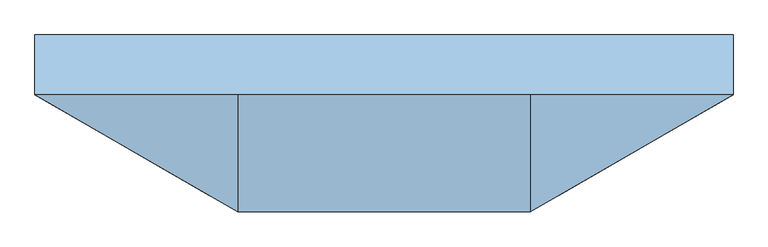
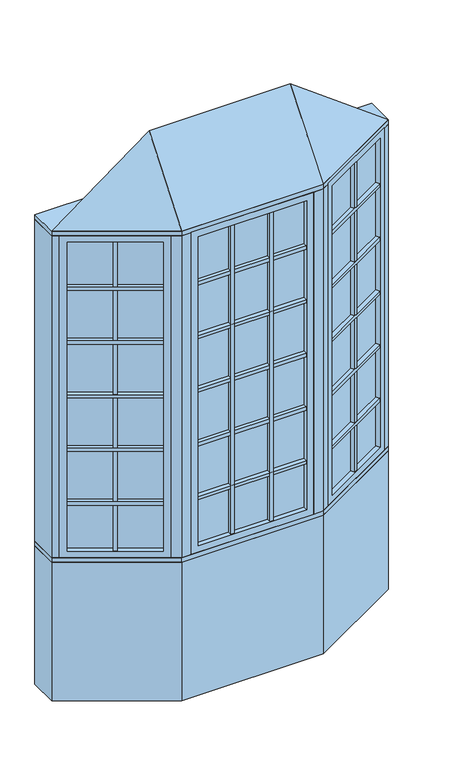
"""IFC4 building model written with IfcOpenShell, lengths in millimetres: window geometry, Pollard_Windows_Tudor Casement Bows and Bays : AML-BAY 30 AFR0518-08-500_GC."""

from ifc_helpers import new_model, si_unit, frame, origin, origin_with_axes, place, context, project, spatial, polyline, outline, extrude, faceted_brep, source, transform, mapped, element, save


def window_5dafa3b9(model_context):
    return source(origin(), model_context, "Body", "SolidModel", [
        extrude(outline(polyline([(445.7305346, -327.3537343), (434.7305346, -308.3011754), (815.6135794, -88.3982469), (826.6135794, -107.4508058), (445.7305346, -327.3537343)])), frame((0.0, 0.0, 1690.998), z_axis=(0.0, 0.0, 1.0), x_axis=(1.0, 0.0, 0.0)), (0.0, 0.0, 1.0), 18.0),
        extrude(outline(polyline([(432.1905346, -303.9017664), (421.1905346, -284.8492075), (802.0735794, -64.946279), (813.0735794, -83.9988379), (432.1905346, -303.9017664)])), frame((0.0, 0.0, 1690.998), z_axis=(0.0, 0.0, 1.0), x_axis=(1.0, 0.0, 0.0)), (0.0, 0.0, 1.0), 18.0),
        extrude(outline(polyline([(445.7305346, -327.3537343), (434.7305346, -308.3011754), (815.6135794, -88.3982469), (826.6135794, -107.4508058), (445.7305346, -327.3537343)])), frame((0.0, 0.0, 1090.998), z_axis=(0.0, 0.0, 1.0), x_axis=(1.0, 0.0, 0.0)), (0.0, 0.0, 1.0), 18.0),
        extrude(outline(polyline([(432.1905346, -303.9017664), (421.1905346, -284.8492075), (802.0735794, -64.946279), (813.0735794, -83.9988379), (432.1905346, -303.9017664)])), frame((0.0, 0.0, 1090.998), z_axis=(0.0, 0.0, 1.0), x_axis=(1.0, 0.0, 0.0)), (0.0, 0.0, 1.0), 18.0),
        extrude(outline(polyline([(445.7305346, -327.3537343), (434.7305346, -308.3011754), (815.6135794, -88.3982469), (826.6135794, -107.4508058), (445.7305346, -327.3537343)])), frame((0.0, 0.0, 1390.998), z_axis=(0.0, 0.0, 1.0), x_axis=(1.0, 0.0, 0.0)), (0.0, 0.0, 1.0), 18.0),
        extrude(outline(polyline([(432.1905346, -303.9017664), (421.1905346, -284.8492075), (802.0735794, -64.946279), (813.0735794, -83.9988379), (432.1905346, -303.9017664)])), frame((0.0, 0.0, 1390.998), z_axis=(0.0, 0.0, 1.0), x_axis=(1.0, 0.0, 0.0)), (0.0, 0.0, 1.0), 18.0),
        extrude(outline(polyline([(445.7305346, -327.3537343), (434.7305346, -308.3011754), (815.6135794, -88.3982469), (826.6135794, -107.4508058), (445.7305346, -327.3537343)])), frame((0.0, 0.0, 1990.998), z_axis=(0.0, 0.0, 1.0), x_axis=(1.0, 0.0, 0.0)), (0.0, 0.0, 1.0), 18.0),
        extrude(outline(polyline([(432.1905346, -303.9017664), (421.1905346, -284.8492075), (802.0735794, -64.946279), (813.0735794, -83.9988379), (432.1905346, -303.9017664)])), frame((0.0, 0.0, 1990.998), z_axis=(0.0, 0.0, 1.0), x_axis=(1.0, 0.0, 0.0)), (0.0, 0.0, 1.0), 18.0),
        extrude(outline(polyline([(445.7305346, -327.3537343), (434.7305346, -308.3011754), (815.6135794, -88.3982469), (826.6135794, -107.4508058), (445.7305346, -327.3537343)])), frame((0.0, 0.0, 2290.998), z_axis=(0.0, 0.0, 1.0), x_axis=(1.0, 0.0, 0.0)), (0.0, 0.0, 1.0), 18.0),
        extrude(outline(polyline([(432.1905346, -303.9017664), (421.1905346, -284.8492075), (802.0735794, -64.946279), (813.0735794, -83.9988379), (432.1905346, -303.9017664)])), frame((0.0, 0.0, 2290.998), z_axis=(0.0, 0.0, 1.0), x_axis=(1.0, 0.0, 0.0)), (0.0, 0.0, 1.0), 18.0),
        extrude(outline(polyline([(632.9662856, -193.8497112), (643.9662856, -212.9022701), (628.3778284, -221.9022701), (617.3778284, -202.8497112), (632.9662856, -193.8497112)])), frame((0.0, 0.0, 835.8628), z_axis=(0.0, 0.0, 1.0), x_axis=(1.0, 0.0, 0.0)), (0.0, 0.0, 1.0), 1728.2704),
        extrude(outline(polyline([(630.4262856, -189.4503021), (614.8378284, -198.4503021), (603.8378284, -179.3977432), (619.4262856, -170.3977432), (630.4262856, -189.4503021)])), frame((0.0, 0.0, 835.8628), z_axis=(0.0, 0.0, 1.0), x_axis=(1.0, 0.0, 0.0)), (0.0, 0.0, 1.0), 1728.2704),
        extrude(outline(polyline([(826.612102, -82.0482469), (423.7320119, -314.6511754), (421.1920119, -310.2517664), (824.072102, -77.6488379), (826.612102, -82.0482469)])), frame((0.0, 0.0, 823.1628), z_axis=(0.0, 0.0, 1.0), x_axis=(1.0, 0.0, 0.0)), (0.0, 0.0, 1.0), 1753.6704),
        faceted_brep([(815.6135794, -88.3982469, 835.8628), (828.3135794, -110.3952922, 835.8628), (828.3135794, -110.3952922, 2564.1332), (815.6135794, -88.3982469, 2564.1332), (824.072102, -77.6488379, 823.1628), (826.612102, -82.0482469, 823.1628), (826.612102, -82.0482469, 2576.8332), (824.072102, -77.6488379, 2576.8332), (800.3735794, -62.0017926, 835.8628), (813.0735794, -83.9988379, 835.8628), (813.0735794, -83.9988379, 2564.1332), (800.3735794, -62.0017926, 2564.1332), (859.3734073, -92.4628922, 799.998), (831.4334073, -44.0693926, 799.998), (831.4334073, -44.0693926, 2599.998), (859.3734073, -92.4628922, 2599.998), (447.4305346, -330.2982207, 2564.1332), (434.7305346, -308.3011754, 2564.1332), (423.7320119, -314.6511754, 2576.8332), (421.1920119, -310.2517664, 2576.8332), (432.1905346, -303.9017664, 2564.1332), (419.4905346, -281.9047211, 2564.1332), (388.4307067, -299.8371211, 2599.998), (416.3707067, -348.2306207, 2599.998), (447.4305346, -330.2982207, 835.8628), (434.7305346, -308.3011754, 835.8628), (423.7320119, -314.6511754, 823.1628), (421.1920119, -310.2517664, 823.1628), (432.1905346, -303.9017664, 835.8628), (419.4905346, -281.9047211, 835.8628), (388.4307067, -299.8371211, 799.998), (416.3707067, -348.2306207, 799.998)], [[[0, 1, 2, 3]], [[4, 5, 6, 7]], [[8, 9, 10, 11]], [[12, 13, 14, 15]], [[3, 2, 16, 17]], [[7, 6, 18, 19]], [[11, 10, 20, 21]], [[15, 14, 22, 23]], [[17, 16, 24, 25]], [[19, 18, 26, 27]], [[21, 20, 28, 29]], [[23, 22, 30, 31]], [[25, 24, 1, 0]], [[5, 26, 18, 6], [3, 17, 25, 0]], [[27, 26, 5, 4]], [[7, 19, 27, 4], [9, 28, 20, 10]], [[29, 28, 9, 8]], [[13, 30, 22, 14], [11, 21, 29, 8]], [[31, 30, 13, 12]], [[15, 23, 31, 12], [1, 24, 16, 2]]]),
        extrude(outline(polyline([(111.9683455, -347.8306207), (111.9683455, -369.8306207), (93.9683455, -369.8306207), (93.9683455, -347.8306207), (111.9683455, -347.8306207)])), frame((0.0, 0.0, 835.8628), z_axis=(0.0, 0.0, 1.0), x_axis=(1.0, 0.0, 0.0)), (0.0, 0.0, 1.0), 1728.2704),
        extrude(outline(polyline([(111.9683455, -342.7506207), (93.9683455, -342.7506207), (93.9683455, -320.7506207), (111.9683455, -320.7506207), (111.9683455, -342.7506207)])), frame((0.0, 0.0, 835.8628), z_axis=(0.0, 0.0, 1.0), x_axis=(1.0, 0.0, 0.0)), (0.0, 0.0, 1.0), 1728.2704),
        extrude(outline(polyline([(-93.9683455, -347.8306207), (-93.9683455, -369.8306207), (-111.9683455, -369.8306207), (-111.9683455, -347.8306207), (-93.9683455, -347.8306207)])), frame((0.0, 0.0, 835.8628), z_axis=(0.0, 0.0, 1.0), x_axis=(1.0, 0.0, 0.0)), (0.0, 0.0, 1.0), 1728.2704),
        extrude(outline(polyline([(-93.9683455, -342.7506207), (-111.9683455, -342.7506207), (-111.9683455, -320.7506207), (-93.9683455, -320.7506207), (-93.9683455, -342.7506207)])), frame((0.0, 0.0, 835.8628), z_axis=(0.0, 0.0, 1.0), x_axis=(1.0, 0.0, 0.0)), (0.0, 0.0, 1.0), 1728.2704),
        extrude(outline(polyline([(-287.2046365, -369.8306207), (-287.2046365, -347.8306207), (287.2046365, -347.8306207), (287.2046365, -369.8306207), (-287.2046365, -369.8306207)])), frame((0.0, 0.0, 1090.998), z_axis=(0.0, 0.0, 1.0), x_axis=(1.0, 0.0, 0.0)), (0.0, 0.0, 1.0), 18.0),
        extrude(outline(polyline([(-287.2046365, -342.7506207), (-287.2046365, -320.7506207), (287.2046365, -320.7506207), (287.2046365, -342.7506207), (-287.2046365, -342.7506207)])), frame((0.0, 0.0, 1090.998), z_axis=(0.0, 0.0, 1.0), x_axis=(1.0, 0.0, 0.0)), (0.0, 0.0, 1.0), 18.0),
        extrude(outline(polyline([(-287.2046365, -369.8306207), (-287.2046365, -347.8306207), (287.2046365, -347.8306207), (287.2046365, -369.8306207), (-287.2046365, -369.8306207)])), frame((0.0, 0.0, 1390.998), z_axis=(0.0, 0.0, 1.0), x_axis=(1.0, 0.0, 0.0)), (0.0, 0.0, 1.0), 18.0),
        extrude(outline(polyline([(-287.2046365, -342.7506207), (-287.2046365, -320.7506207), (287.2046365, -320.7506207), (287.2046365, -342.7506207), (-287.2046365, -342.7506207)])), frame((0.0, 0.0, 1390.998), z_axis=(0.0, 0.0, 1.0), x_axis=(1.0, 0.0, 0.0)), (0.0, 0.0, 1.0), 18.0),
        extrude(outline(polyline([(-287.2046365, -369.8306207), (-287.2046365, -347.8306207), (287.2046365, -347.8306207), (287.2046365, -369.8306207), (-287.2046365, -369.8306207)])), frame((0.0, 0.0, 1690.998), z_axis=(0.0, 0.0, 1.0), x_axis=(1.0, 0.0, 0.0)), (0.0, 0.0, 1.0), 18.0),
        extrude(outline(polyline([(-287.2046365, -342.7506207), (-287.2046365, -320.7506207), (287.2046365, -320.7506207), (287.2046365, -342.7506207), (-287.2046365, -342.7506207)])), frame((0.0, 0.0, 1690.998), z_axis=(0.0, 0.0, 1.0), x_axis=(1.0, 0.0, 0.0)), (0.0, 0.0, 1.0), 18.0),
        extrude(outline(polyline([(-287.2046365, -369.8306207), (-287.2046365, -347.8306207), (287.2046365, -347.8306207), (287.2046365, -369.8306207), (-287.2046365, -369.8306207)])), frame((0.0, 0.0, 1990.998), z_axis=(0.0, 0.0, 1.0), x_axis=(1.0, 0.0, 0.0)), (0.0, 0.0, 1.0), 18.0),
        extrude(outline(polyline([(-287.2046365, -342.7506207), (-287.2046365, -320.7506207), (287.2046365, -320.7506207), (287.2046365, -342.7506207), (-287.2046365, -342.7506207)])), frame((0.0, 0.0, 1990.998), z_axis=(0.0, 0.0, 1.0), x_axis=(1.0, 0.0, 0.0)), (0.0, 0.0, 1.0), 18.0),
        extrude(outline(polyline([(-826.6135794, -107.4508058), (-815.6135794, -88.3982469), (-434.7305346, -308.3011754), (-445.7305346, -327.3537343), (-826.6135794, -107.4508058)])), frame((0.0, 0.0, 1090.998), z_axis=(0.0, 0.0, 1.0), x_axis=(1.0, 0.0, 0.0)), (0.0, 0.0, 1.0), 18.0),
        extrude(outline(polyline([(-813.0735794, -83.9988379), (-802.0735794, -64.946279), (-421.1905346, -284.8492075), (-432.1905346, -303.9017664), (-813.0735794, -83.9988379)])), frame((0.0, 0.0, 1090.998), z_axis=(0.0, 0.0, 1.0), x_axis=(1.0, 0.0, 0.0)), (0.0, 0.0, 1.0), 18.0),
        extrude(outline(polyline([(-826.6135794, -107.4508058), (-815.6135794, -88.3982469), (-434.7305346, -308.3011754), (-445.7305346, -327.3537343), (-826.6135794, -107.4508058)])), frame((0.0, 0.0, 1390.998), z_axis=(0.0, 0.0, 1.0), x_axis=(1.0, 0.0, 0.0)), (0.0, 0.0, 1.0), 18.0),
        extrude(outline(polyline([(-813.0735794, -83.9988379), (-802.0735794, -64.946279), (-421.1905346, -284.8492075), (-432.1905346, -303.9017664), (-813.0735794, -83.9988379)])), frame((0.0, 0.0, 1390.998), z_axis=(0.0, 0.0, 1.0), x_axis=(1.0, 0.0, 0.0)), (0.0, 0.0, 1.0), 18.0),
        extrude(outline(polyline([(-826.6135794, -107.4508058), (-815.6135794, -88.3982469), (-434.7305346, -308.3011754), (-445.7305346, -327.3537343), (-826.6135794, -107.4508058)])), frame((0.0, 0.0, 1690.998), z_axis=(0.0, 0.0, 1.0), x_axis=(1.0, 0.0, 0.0)), (0.0, 0.0, 1.0), 18.0),
        extrude(outline(polyline([(-813.0735794, -83.9988379), (-802.0735794, -64.946279), (-421.1905346, -284.8492075), (-432.1905346, -303.9017664), (-813.0735794, -83.9988379)])), frame((0.0, 0.0, 1690.998), z_axis=(0.0, 0.0, 1.0), x_axis=(1.0, 0.0, 0.0)), (0.0, 0.0, 1.0), 18.0),
        extrude(outline(polyline([(-826.6135794, -107.4508058), (-815.6135794, -88.3982469), (-434.7305346, -308.3011754), (-445.7305346, -327.3537343), (-826.6135794, -107.4508058)])), frame((0.0, 0.0, 1990.998), z_axis=(0.0, 0.0, 1.0), x_axis=(1.0, 0.0, 0.0)), (0.0, 0.0, 1.0), 18.0),
        extrude(outline(polyline([(-813.0735794, -83.9988379), (-802.0735794, -64.946279), (-421.1905346, -284.8492075), (-432.1905346, -303.9017664), (-813.0735794, -83.9988379)])), frame((0.0, 0.0, 1990.998), z_axis=(0.0, 0.0, 1.0), x_axis=(1.0, 0.0, 0.0)), (0.0, 0.0, 1.0), 18.0),
        extrude(outline(polyline([(-826.6135794, -107.4508058), (-815.6135794, -88.3982469), (-434.7305346, -308.3011754), (-445.7305346, -327.3537343), (-826.6135794, -107.4508058)])), frame((0.0, 0.0, 2290.998), z_axis=(0.0, 0.0, 1.0), x_axis=(1.0, 0.0, 0.0)), (0.0, 0.0, 1.0), 18.0),
        extrude(outline(polyline([(-813.0735794, -83.9988379), (-802.0735794, -64.946279), (-421.1905346, -284.8492075), (-432.1905346, -303.9017664), (-813.0735794, -83.9988379)])), frame((0.0, 0.0, 2290.998), z_axis=(0.0, 0.0, 1.0), x_axis=(1.0, 0.0, 0.0)), (0.0, 0.0, 1.0), 18.0),
        extrude(outline(polyline([(-287.2046365, -369.8306207), (-287.2046365, -347.8306207), (287.2046365, -347.8306207), (287.2046365, -369.8306207), (-287.2046365, -369.8306207)])), frame((0.0, 0.0, 2290.998), z_axis=(0.0, 0.0, 1.0), x_axis=(1.0, 0.0, 0.0)), (0.0, 0.0, 1.0), 18.0),
        extrude(outline(polyline([(-287.2046365, -342.7506207), (-287.2046365, -320.7506207), (287.2046365, -320.7506207), (287.2046365, -342.7506207), (-287.2046365, -342.7506207)])), frame((0.0, 0.0, 2290.998), z_axis=(0.0, 0.0, 1.0), x_axis=(1.0, 0.0, 0.0)), (0.0, 0.0, 1.0), 18.0),
        extrude(outline(polyline([(-617.3778284, -202.8497112), (-628.3778284, -221.9022701), (-643.9662856, -212.9022701), (-632.9662856, -193.8497112), (-617.3778284, -202.8497112)])), frame((0.0, 0.0, 835.8628), z_axis=(0.0, 0.0, 1.0), x_axis=(1.0, 0.0, 0.0)), (0.0, 0.0, 1.0), 1728.2704),
        extrude(outline(polyline([(-614.8378284, -198.4503021), (-630.4262856, -189.4503021), (-619.4262856, -170.3977432), (-603.8378284, -179.3977432), (-614.8378284, -198.4503021)])), frame((0.0, 0.0, 835.8628), z_axis=(0.0, 0.0, 1.0), x_axis=(1.0, 0.0, 0.0)), (0.0, 0.0, 1.0), 1728.2704),
        extrude(outline(polyline([(-423.7320119, -314.6511754), (-826.612102, -82.0482469), (-824.072102, -77.6488379), (-421.1920119, -310.2517664), (-423.7320119, -314.6511754)])), frame((0.0, 0.0, 823.1628), z_axis=(0.0, 0.0, 1.0), x_axis=(1.0, 0.0, 0.0)), (0.0, 0.0, 1.0), 1753.6704),
        faceted_brep([(-432.1905346, -303.9017664, 2564.1332), (-419.4905346, -281.9047211, 2564.1332), (-419.4905346, -281.9047211, 835.8628), (-432.1905346, -303.9017664, 835.8628), (-423.7320119, -314.6511754, 2576.8332), (-421.1920119, -310.2517664, 2576.8332), (-421.1920119, -310.2517664, 823.1628), (-423.7320119, -314.6511754, 823.1628), (-447.4305346, -330.2982207, 2564.1332), (-434.7305346, -308.3011754, 2564.1332), (-434.7305346, -308.3011754, 835.8628), (-447.4305346, -330.2982207, 835.8628), (-388.4307067, -299.8371211, 2599.998), (-416.3707067, -348.2306207, 2599.998), (-416.3707067, -348.2306207, 799.998), (-388.4307067, -299.8371211, 799.998), (-800.3735794, -62.0017926, 835.8628), (-813.0735794, -83.9988379, 835.8628), (-824.072102, -77.6488379, 823.1628), (-826.612102, -82.0482469, 823.1628), (-815.6135794, -88.3982469, 835.8628), (-828.3135794, -110.3952922, 835.8628), (-859.3734073, -92.4628922, 799.998), (-831.4334073, -44.0693926, 799.998), (-800.3735794, -62.0017926, 2564.1332), (-813.0735794, -83.9988379, 2564.1332), (-824.072102, -77.6488379, 2576.8332), (-826.612102, -82.0482469, 2576.8332), (-815.6135794, -88.3982469, 2564.1332), (-828.3135794, -110.3952922, 2564.1332), (-859.3734073, -92.4628922, 2599.998), (-831.4334073, -44.0693926, 2599.998)], [[[0, 1, 2, 3]], [[4, 5, 6, 7]], [[8, 9, 10, 11]], [[12, 13, 14, 15]], [[3, 2, 16, 17]], [[7, 6, 18, 19]], [[11, 10, 20, 21]], [[15, 14, 22, 23]], [[17, 16, 24, 25]], [[19, 18, 26, 27]], [[21, 20, 28, 29]], [[23, 22, 30, 31]], [[15, 23, 31, 12], [1, 24, 16, 2]], [[25, 24, 1, 0]], [[5, 26, 18, 6], [3, 17, 25, 0]], [[27, 26, 5, 4]], [[7, 19, 27, 4], [9, 28, 20, 10]], [[29, 28, 9, 8]], [[13, 30, 22, 14], [11, 21, 29, 8]], [[31, 30, 13, 12]]]),
        extrude(outline(polyline([(299.9046365, -347.8306207), (-299.9046365, -347.8306207), (-299.9046365, -342.7506207), (299.9046365, -342.7506207), (299.9046365, -347.8306207)])), frame((0.0, 0.0, 823.1628), z_axis=(0.0, 0.0, 1.0), x_axis=(1.0, 0.0, 0.0)), (0.0, 0.0, 1.0), 1753.6704),
        faceted_brep([(287.2046365, -347.8306207, 835.8628), (287.2046365, -373.2306207, 835.8628), (287.2046365, -373.2306207, 2564.1332), (287.2046365, -347.8306207, 2564.1332), (299.9046365, -342.7506207, 823.1628), (299.9046365, -347.8306207, 823.1628), (299.9046365, -347.8306207, 2576.8332), (299.9046365, -342.7506207, 2576.8332), (287.2046365, -317.3506207, 835.8628), (287.2046365, -342.7506207, 835.8628), (287.2046365, -342.7506207, 2564.1332), (287.2046365, -317.3506207, 2564.1332), (323.0694365, -373.2306207, 799.998), (323.0694365, -317.3506207, 799.998), (323.0694365, -317.3506207, 2599.998), (323.0694365, -373.2306207, 2599.998), (-287.2046365, -373.2306207, 2564.1332), (-287.2046365, -347.8306207, 2564.1332), (-299.9046365, -347.8306207, 2576.8332), (-299.9046365, -342.7506207, 2576.8332), (-287.2046365, -342.7506207, 2564.1332), (-287.2046365, -317.3506207, 2564.1332), (-323.0694365, -317.3506207, 2599.998), (-323.0694365, -373.2306207, 2599.998), (-287.2046365, -373.2306207, 835.8628), (-287.2046365, -347.8306207, 835.8628), (-299.9046365, -347.8306207, 823.1628), (-299.9046365, -342.7506207, 823.1628), (-287.2046365, -342.7506207, 835.8628), (-287.2046365, -317.3506207, 835.8628), (-323.0694365, -317.3506207, 799.998), (-323.0694365, -373.2306207, 799.998)], [[[0, 1, 2, 3]], [[4, 5, 6, 7]], [[8, 9, 10, 11]], [[12, 13, 14, 15]], [[3, 2, 16, 17]], [[7, 6, 18, 19]], [[11, 10, 20, 21]], [[15, 14, 22, 23]], [[17, 16, 24, 25]], [[19, 18, 26, 27]], [[21, 20, 28, 29]], [[23, 22, 30, 31]], [[15, 23, 31, 12], [1, 24, 16, 2]], [[25, 24, 1, 0]], [[5, 26, 18, 6], [3, 17, 25, 0]], [[27, 26, 5, 4]], [[7, 19, 27, 4], [9, 28, 20, 10]], [[29, 28, 9, 8]], [[13, 30, 22, 14], [11, 21, 29, 8]], [[31, 30, 13, 12]]]),
        faceted_brep([(890.0, -74.7806207, 2625.398), (373.0694365, -373.2306207, 2625.398), (-373.0694365, -373.2306207, 2625.398), (-890.0, -74.7806207, 2625.398), (-373.0694365, -74.7806207, 3006.398), (373.0694365, -74.7806207, 3006.398)], [[[0, 1, 2, 3]], [[3, 2, 4]], [[2, 1, 5, 4]], [[1, 0, 5]], [[0, 3, 4, 5]]]),
        extrude(outline(polyline([(-890.0, 77.6193793), (890.0, 77.6193793), (890.0, -74.7806207), (373.0694365, -373.2306207), (-373.0694365, -373.2306207), (-890.0, -74.7806207), (-890.0, 77.6193793)])), frame((0.0, 0.0, 2599.998), z_axis=(0.0, 0.0, 1.0), x_axis=(1.0, 0.0, 0.0)), (0.0, 0.0, 1.0), 25.4),
        extrude(outline(polyline([(-890.0, -74.7806207), (-890.0, 77.6193793), (-849.1645431, 77.6193793), (-849.1645431, -74.7806207), (-859.3734073, -92.4628922), (-890.0, -74.7806207)])), frame((0.0, 0.0, 799.998), z_axis=(0.0, 0.0, 1.0), x_axis=(1.0, 0.0, 0.0)), (0.0, 0.0, 1.0), 1800.0),
        extrude(outline(polyline([(890.0, 77.6193793), (890.0, -74.7806207), (859.3734073, -92.4628922), (849.1645431, -74.7806207), (849.1645431, 77.6193793), (890.0, 77.6193793)])), frame((0.0, 0.0, 799.998), z_axis=(0.0, 0.0, 1.0), x_axis=(1.0, 0.0, 0.0)), (0.0, 0.0, 1.0), 1800.0),
        extrude(outline(polyline([(373.0694365, -373.2306207), (323.0694365, -373.2306207), (323.0694365, -323.2306207), (359.6719769, -323.2306207), (391.3707067, -304.9293505), (416.3707067, -348.2306207), (373.0694365, -373.2306207)])), frame((0.0, 0.0, 799.998), z_axis=(0.0, 0.0, 1.0), x_axis=(1.0, 0.0, 0.0)), (0.0, 0.0, 1.0), 1800.0),
        extrude(outline(polyline([(-373.0694365, -373.2306207), (-416.3707067, -348.2306207), (-391.3707067, -304.9293505), (-359.6719769, -323.2306207), (-323.0694365, -323.2306207), (-323.0694365, -373.2306207), (-373.0694365, -373.2306207)])), frame((0.0, 0.0, 799.998), z_axis=(0.0, 0.0, 1.0), x_axis=(1.0, 0.0, 0.0)), (0.0, 0.0, 1.0), 1800.0),
        extrude(outline(polyline([(-373.0694365, -373.2306207), (-890.0, -74.7806207), (-890.0, 77.6193793), (-849.1645431, 77.6193793), (-332.2339796, -220.8306207), (332.2339796, -220.8306207), (849.1645431, 77.6193793), (890.0, 77.6193793), (890.0, -74.7806207), (373.0694365, -373.2306207), (-373.0694365, -373.2306207)])), frame((0.0, 0.0, 774.598), z_axis=(0.0, 0.0, 1.0), x_axis=(1.0, 0.0, 0.0)), (0.0, 0.0, 1.0), 25.4),
        extrude(outline(polyline([(-890.0, -74.7806207), (-890.0, 77.6193793), (-849.1645431, 77.6193793), (-332.2339796, -220.8306207), (332.2339796, -220.8306207), (849.1645431, 77.6193793), (890.0, 77.6193793), (890.0, -74.7806207), (373.0694365, -373.2306207), (-373.0694365, -373.2306207), (-890.0, -74.7806207)])), origin_with_axes(), (0.0, 0.0, 1.0), 774.598),
    ])


if __name__ == "__main__":
    model = new_model("IFC4")
    model_context = context("Model", 3, world=origin())
    ifc_project = project(units=[si_unit("LENGTHUNIT", "METRE", prefix="MILLI")], contexts=[model_context])
    site = spatial("IfcSite", under=ifc_project)
    building = spatial("IfcBuilding", under=site)
    placement = place(None, origin())
    window_shape = window_5dafa3b9(model_context)
    element("IfcWindow", 1, ObjectType="Pollard_Windows_Tudor Casement Bows and Bays : AML-BAY 30 AFR0518-08-500_GC", at=placement, inside=building, context=model_context, shape_type="MappedRepresentation", body=[
        mapped(window_shape, transform((0.0, 0.0, 0.0), x_axis=(1.0, 0.0, 0.0), y_axis=(0.0, 1.0, 0.0), z_axis=(0.0, 0.0, 1.0))),
    ])
    save(model, "model.ifc")
